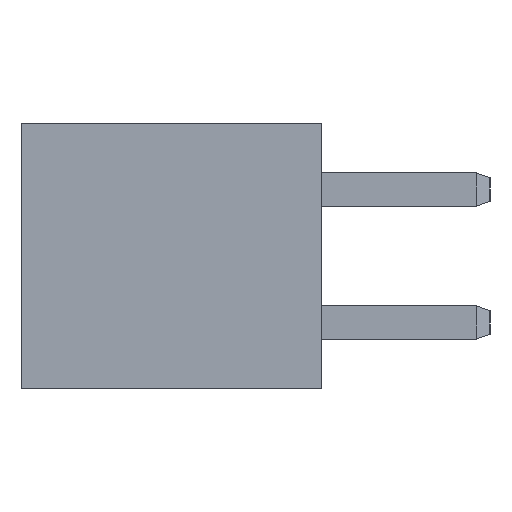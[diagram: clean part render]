
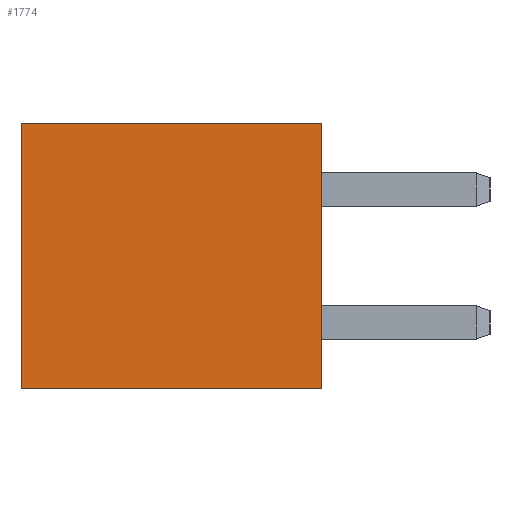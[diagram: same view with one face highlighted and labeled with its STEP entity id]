
A CAD part, left-side view. The second image highlights one B-rep face of the part: STEP entity #1774.
In plain terms, the highlighted planar face has unit normal (-1, 0, 0).
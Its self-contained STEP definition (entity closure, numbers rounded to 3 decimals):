
#300 = VERTEX_POINT ( 'NONE', #4143 ) ;
#347 = VERTEX_POINT ( 'NONE', #4317 ) ;
#353 = EDGE_CURVE ( 'NONE', #354, #300, #4312, .T. ) ;
#354 = VERTEX_POINT ( 'NONE', #4308 ) ;
#366 = VERTEX_POINT ( 'NONE', #4323 ) ;
#367 = EDGE_CURVE ( 'NONE', #347, #366, #4379, .T. ) ;
#402 = EDGE_CURVE ( 'NONE', #354, #347, #4388, .T. ) ;
#1774 = ADVANCED_FACE ( 'NONE', ( #6789 ), #6788, .F. ) ;
#1775 = EDGE_LOOP ( 'NONE', ( #1776, #1777, #1778, #1779 ) ) ;
#1776 = ORIENTED_EDGE ( 'NONE', *, *, #3583, .T. ) ;
#1777 = ORIENTED_EDGE ( 'NONE', *, *, #367, .F. ) ;
#1778 = ORIENTED_EDGE ( 'NONE', *, *, #402, .F. ) ;
#1779 = ORIENTED_EDGE ( 'NONE', *, *, #353, .T. ) ;
#3583 = EDGE_CURVE ( 'NONE', #300, #366, #12150, .T. ) ;
#4143 = CARTESIAN_POINT ( 'NONE',  ( -19., 0., -3. ) ) ;
#4308 = CARTESIAN_POINT ( 'NONE',  ( -19., 4.5, -3. ) ) ;
#4309 = DIRECTION ( 'NONE',  ( 0., -1., 0. ) ) ;
#4310 = VECTOR ( 'NONE', #4309, 1000. ) ;
#4311 = CARTESIAN_POINT ( 'NONE',  ( -19., 4.5, -3. ) ) ;
#4312 = LINE ( 'NONE', #4311, #4310 ) ;
#4317 = CARTESIAN_POINT ( 'NONE',  ( -19., 4.5, 1. ) ) ;
#4323 = CARTESIAN_POINT ( 'NONE',  ( -19., 0., 1. ) ) ;
#4376 = DIRECTION ( 'NONE',  ( 0., -1., 0. ) ) ;
#4377 = VECTOR ( 'NONE', #4376, 1000. ) ;
#4378 = CARTESIAN_POINT ( 'NONE',  ( -19., 4.5, 1. ) ) ;
#4379 = LINE ( 'NONE', #4378, #4377 ) ;
#4385 = DIRECTION ( 'NONE',  ( 0., 0., 1. ) ) ;
#4386 = VECTOR ( 'NONE', #4385, 1000. ) ;
#4387 = CARTESIAN_POINT ( 'NONE',  ( -19., 4.5, -3. ) ) ;
#4388 = LINE ( 'NONE', #4387, #4386 ) ;
#6783 = DIRECTION ( 'NONE',  ( 0., 0., -1. ) ) ;
#6784 = DIRECTION ( 'NONE',  ( 1., 0., 0. ) ) ;
#6785 = CARTESIAN_POINT ( 'NONE',  ( -19., 4.5, -3. ) ) ;
#6787 = AXIS2_PLACEMENT_3D ( 'NONE', #6785, #6784, #6783 ) ;
#6788 = PLANE ( 'NONE',  #6787 ) ;
#6789 = FACE_OUTER_BOUND ( 'NONE', #1775, .T. ) ;
#12147 = DIRECTION ( 'NONE',  ( 0., 0., 1. ) ) ;
#12148 = VECTOR ( 'NONE', #12147, 1000. ) ;
#12149 = CARTESIAN_POINT ( 'NONE',  ( -19., 0., -3. ) ) ;
#12150 = LINE ( 'NONE', #12149, #12148 ) ;
